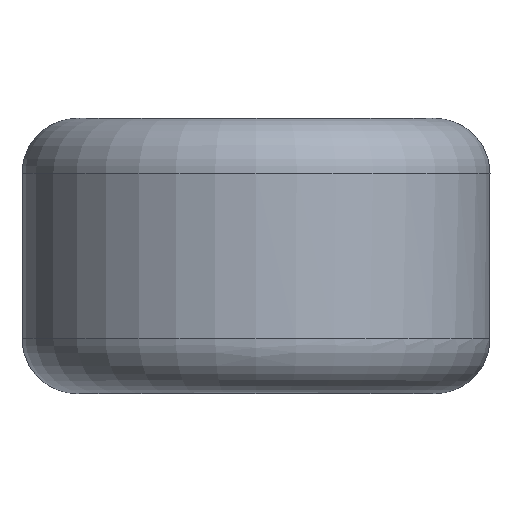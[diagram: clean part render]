
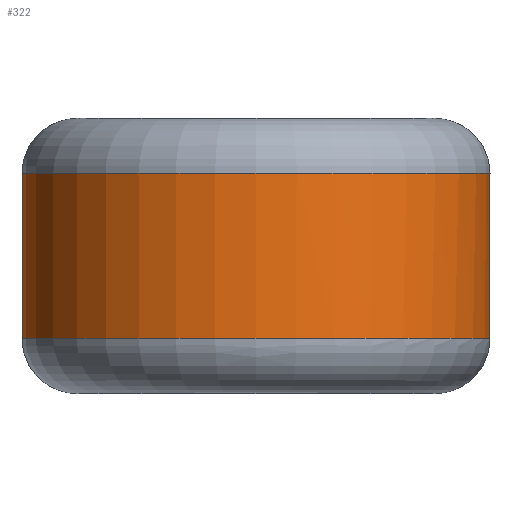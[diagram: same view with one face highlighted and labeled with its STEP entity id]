
A CAD part, top view. The second image highlights one B-rep face of the part: STEP entity #322.
In plain terms, the highlighted cylindrical face has radius 4.25 mm (diameter 8.5 mm), a full revolution.
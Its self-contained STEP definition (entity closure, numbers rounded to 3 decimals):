
#26=B_SPLINE_CURVE_WITH_KNOTS('',3,(#895,#896,#897,#898,#899,#900,#901,
#902,#903,#904,#905,#906),.UNSPECIFIED.,.F.,.F.,(4,1,1,1,2,1,1,1,4),(-0.223,
-0.184,-0.146,-0.12,-0.094,
-0.056,-0.038,-0.019,0.),
 .UNSPECIFIED.);
#28=B_SPLINE_CURVE_WITH_KNOTS('',3,(#974,#975,#976,#977,#978,#979,#980,
#981,#982,#983,#984),.UNSPECIFIED.,.F.,.F.,(4,1,1,1,2,1,1,4),(-0.223,
-0.184,-0.146,-0.12,-0.094,
-0.056,-0.028,0.),.UNSPECIFIED.);
#76=FACE_OUTER_BOUND('',#96,.T.);
#96=EDGE_LOOP('',(#257,#258,#259,#260,#261,#262,#263,#264,#265,#266));
#109=LINE('',#968,#112);
#112=VECTOR('',#427,4.25);
#124=CIRCLE('',#367,4.25);
#125=CIRCLE('',#368,4.25);
#126=CIRCLE('',#369,4.25);
#127=CIRCLE('',#371,4.25);
#128=CIRCLE('',#372,4.25);
#129=CIRCLE('',#373,4.25);
#149=VERTEX_POINT('',#891);
#150=VERTEX_POINT('',#893);
#153=VERTEX_POINT('',#960);
#154=VERTEX_POINT('',#963);
#155=VERTEX_POINT('',#967);
#156=VERTEX_POINT('',#969);
#157=VERTEX_POINT('',#971);
#158=VERTEX_POINT('',#973);
#186=EDGE_CURVE('',#149,#150,#26,.T.);
#191=EDGE_CURVE('',#150,#153,#124,.T.);
#192=EDGE_CURVE('',#154,#149,#125,.T.);
#193=EDGE_CURVE('',#153,#154,#126,.T.);
#194=EDGE_CURVE('',#154,#155,#109,.T.);
#195=EDGE_CURVE('',#155,#156,#127,.T.);
#196=EDGE_CURVE('',#156,#157,#128,.T.);
#197=EDGE_CURVE('',#157,#158,#28,.T.);
#198=EDGE_CURVE('',#158,#155,#129,.T.);
#257=ORIENTED_EDGE('',*,*,#186,.T.);
#258=ORIENTED_EDGE('',*,*,#191,.T.);
#259=ORIENTED_EDGE('',*,*,#193,.T.);
#260=ORIENTED_EDGE('',*,*,#194,.T.);
#261=ORIENTED_EDGE('',*,*,#195,.T.);
#262=ORIENTED_EDGE('',*,*,#196,.T.);
#263=ORIENTED_EDGE('',*,*,#197,.T.);
#264=ORIENTED_EDGE('',*,*,#198,.T.);
#265=ORIENTED_EDGE('',*,*,#194,.F.);
#266=ORIENTED_EDGE('',*,*,#192,.T.);
#312=CYLINDRICAL_SURFACE('',#370,4.25);
#322=ADVANCED_FACE('',(#76),#312,.T.);
#367=AXIS2_PLACEMENT_3D('',#962,#419,#420);
#368=AXIS2_PLACEMENT_3D('',#964,#421,#422);
#369=AXIS2_PLACEMENT_3D('',#965,#423,#424);
#370=AXIS2_PLACEMENT_3D('',#966,#425,#426);
#371=AXIS2_PLACEMENT_3D('',#970,#428,#429);
#372=AXIS2_PLACEMENT_3D('',#972,#430,#431);
#373=AXIS2_PLACEMENT_3D('',#985,#432,#433);
#419=DIRECTION('center_axis',(0.,-1.,0.));
#420=DIRECTION('ref_axis',(-1.,0.,0.));
#421=DIRECTION('center_axis',(0.,-1.,0.));
#422=DIRECTION('ref_axis',(-1.,0.,0.));
#423=DIRECTION('center_axis',(0.,-1.,0.));
#424=DIRECTION('ref_axis',(-1.,0.,0.));
#425=DIRECTION('center_axis',(0.,-1.,0.));
#426=DIRECTION('ref_axis',(1.,0.,0.));
#427=DIRECTION('',(0.,-1.,0.));
#428=DIRECTION('center_axis',(0.,1.,0.));
#429=DIRECTION('ref_axis',(-1.,0.,0.));
#430=DIRECTION('center_axis',(0.,1.,0.));
#431=DIRECTION('ref_axis',(-1.,0.,0.));
#432=DIRECTION('center_axis',(0.,1.,0.));
#433=DIRECTION('ref_axis',(-1.,0.,0.));
#891=CARTESIAN_POINT('',(-2.389,1.5,-3.515));
#893=CARTESIAN_POINT('',(-1.472,1.5,-3.987));
#895=CARTESIAN_POINT('Ctrl Pts',(-2.389,1.5,-3.515));
#896=CARTESIAN_POINT('Ctrl Pts',(-2.431,1.382,-3.486));
#897=CARTESIAN_POINT('Ctrl Pts',(-2.446,1.105,-3.476));
#898=CARTESIAN_POINT('Ctrl Pts',(-2.269,0.808,-3.597));
#899=CARTESIAN_POINT('Ctrl Pts',(-2.02,0.704,-3.742));
#900=CARTESIAN_POINT('Ctrl Pts',(-1.866,0.723,-3.819));
#901=CARTESIAN_POINT('Ctrl Pts',(-1.687,0.789,-3.903));
#902=CARTESIAN_POINT('Ctrl Pts',(-1.539,0.901,-3.963));
#903=CARTESIAN_POINT('Ctrl Pts',(-1.432,1.129,-4.002));
#904=CARTESIAN_POINT('Ctrl Pts',(-1.414,1.32,-4.008));
#905=CARTESIAN_POINT('Ctrl Pts',(-1.447,1.444,-3.996));
#906=CARTESIAN_POINT('Ctrl Pts',(-1.472,1.5,-3.987));
#960=CARTESIAN_POINT('',(0.,1.5,-4.25));
#962=CARTESIAN_POINT('Origin',(0.,1.5,0.));
#963=CARTESIAN_POINT('',(-4.25,1.5,0.));
#964=CARTESIAN_POINT('Origin',(0.,1.5,0.));
#965=CARTESIAN_POINT('Origin',(0.,1.5,0.));
#966=CARTESIAN_POINT('Origin',(0.,0.,0.));
#967=CARTESIAN_POINT('',(-4.25,-1.5,0.));
#968=CARTESIAN_POINT('',(-4.25,0.,0.));
#969=CARTESIAN_POINT('',(0.,-1.5,4.25));
#970=CARTESIAN_POINT('Origin',(0.,-1.5,0.));
#971=CARTESIAN_POINT('',(2.389,-1.5,-3.515));
#972=CARTESIAN_POINT('Origin',(0.,-1.5,0.));
#973=CARTESIAN_POINT('',(1.472,-1.5,-3.987));
#974=CARTESIAN_POINT('Ctrl Pts',(2.389,-1.5,-3.515));
#975=CARTESIAN_POINT('Ctrl Pts',(2.431,-1.382,-3.486));
#976=CARTESIAN_POINT('Ctrl Pts',(2.446,-1.105,-3.476));
#977=CARTESIAN_POINT('Ctrl Pts',(2.269,-0.809,-3.597));
#978=CARTESIAN_POINT('Ctrl Pts',(2.02,-0.703,-3.742));
#979=CARTESIAN_POINT('Ctrl Pts',(1.866,-0.723,-3.819));
#980=CARTESIAN_POINT('Ctrl Pts',(1.687,-0.789,-3.903));
#981=CARTESIAN_POINT('Ctrl Pts',(1.514,-0.919,-3.973));
#982=CARTESIAN_POINT('Ctrl Pts',(1.4,-1.222,-4.013));
#983=CARTESIAN_POINT('Ctrl Pts',(1.434,-1.416,-4.001));
#984=CARTESIAN_POINT('Ctrl Pts',(1.472,-1.5,-3.987));
#985=CARTESIAN_POINT('Origin',(0.,-1.5,0.));
